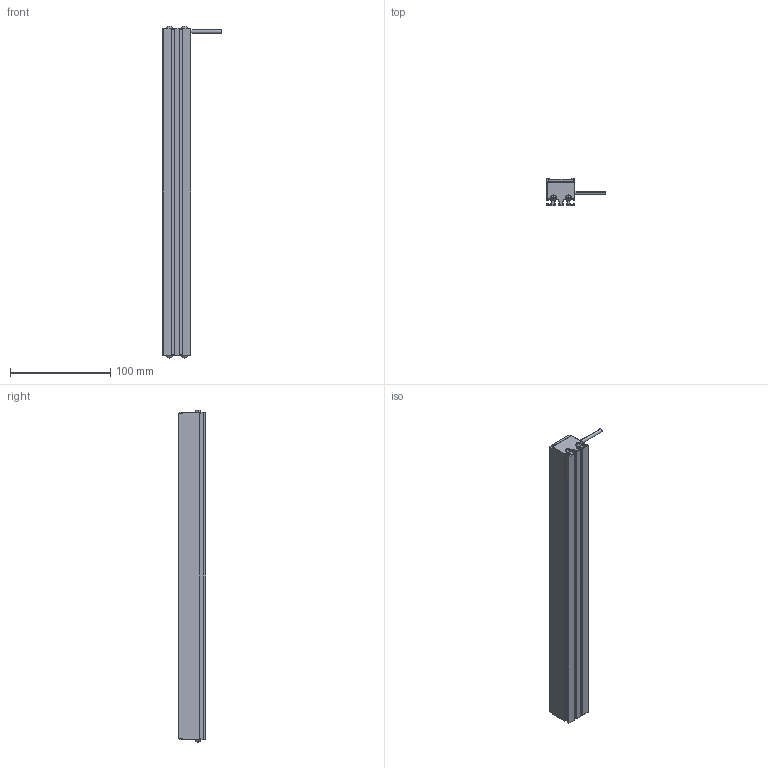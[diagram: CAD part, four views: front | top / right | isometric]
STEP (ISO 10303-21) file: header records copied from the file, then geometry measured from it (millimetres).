
FILE_DESCRIPTION((''),'2;1');
FILE_NAME('MV-LLDS-327-28_ASM','2020-12-30T',('Administrator'),(''),'PRO/ENGINEER BY PARAMETRIC TECHNOLOGY CORPORATION, 2010100','PRO/ENGINEER BY PARAMETRIC TECHNOLOGY CORPORATION, 2010100','');
FILE_SCHEMA(('CONFIG_CONTROL_DESIGN'));
Length unit declared in the file: millimetre
Products named in the file (3): BL-4_2_; M3-5_3; MV-LLDS-327-28_ASM
Assembly tree (5 placements, depth 2):
  MV-LLDS-327-28_ASM
    BL-4_2_
    M3-5_3  x4
Bounding box: 58 x 27 x 331.68 mm (x, y, z)
Volume: 204965.6 mm3; surface area: 77610.5 mm2
Topology: 5 solids, 13 shells, 303 faces, 802 edges, 516 vertices
Faces by surface type: plane 185, cylinder 70, cone 16, bspline 16, torus 8, sphere 8
Entity records: 6728 total; most frequent: CARTESIAN_POINT 1440, ORIENTED_EDGE 1074, DIRECTION 1069, EDGE_CURVE 547, VECTOR 397, LINE 397, VERTEX_POINT 357, AXIS2_PLACEMENT_3D 336
